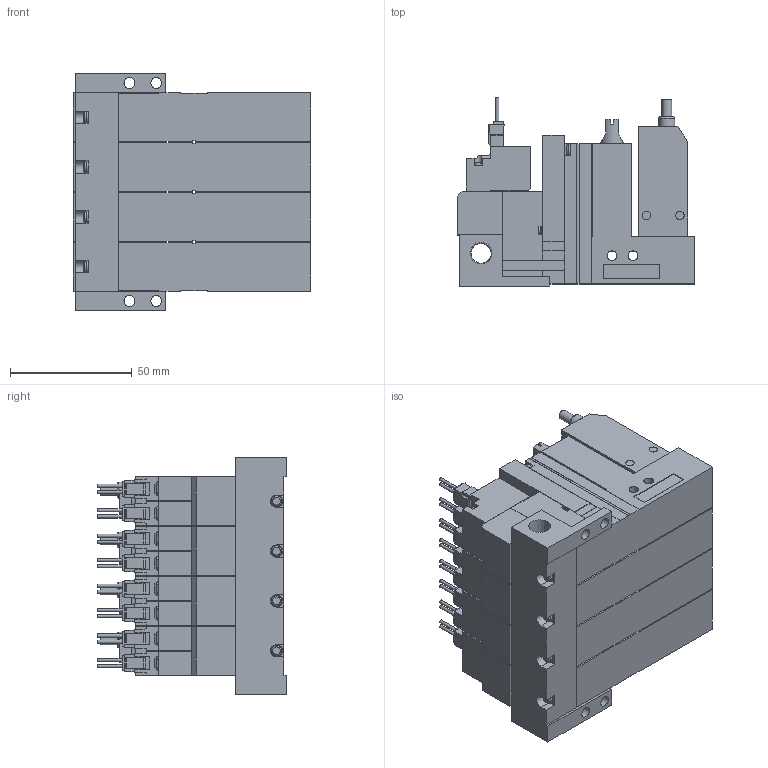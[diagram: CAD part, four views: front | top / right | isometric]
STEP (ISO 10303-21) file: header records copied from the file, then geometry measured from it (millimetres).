
FILE_DESCRIPTION(('STEP AP203'),'1');
FILE_NAME('ABS_ABPLC5BLR404.stp','2025-02-18T23:33:48',(' '),(' '),'Spatial InterOp 3D',' ',' ');
FILE_SCHEMA(('CONFIG_CONTROL_DESIGN'));
Length unit declared in the file: millimetre
Products named in the file (5): BMC22M※※※※ABS_ABPLC5BLR404; Solenoid valve B; Pressure sensor ABSLC; Unit LC; Base MR40R
Assembly tree (13 placements, depth 2):
  BMC22M※※※※ABS_ABPLC5BLR404
    Solenoid valve B  x4
    Pressure sensor ABSLC  x4
    Unit LC  x4
    Base MR40R
Bounding box: 97.6 x 77.45 x 97.5 mm (x, y, z)
Volume: 407962.3 mm3; surface area: 107144.7 mm2
Topology: 13 solids, 13 shells, 1569 faces, 4211 edges, 2768 vertices
Faces by surface type: plane 1334, cylinder 181, cone 30, torus 24
Full cylindrical faces by diameter (mm): 1.4 x16, 2.5 x4, 3 x16, 3.5 x24, 3.6 x4, 4 x12, 4.134 x4, 4.5 x4, 5.2 x4, 6 x4, 6.5 x4, 6.6 x4, 8.279 x1
Entity records: 14147 total; most frequent: CARTESIAN_POINT 2693, DIRECTION 2241, ORIENTED_EDGE 2236, EDGE_CURVE 1118, LINE 921, VECTOR 921, VERTEX_POINT 776, AXIS2_PLACEMENT_3D 660
